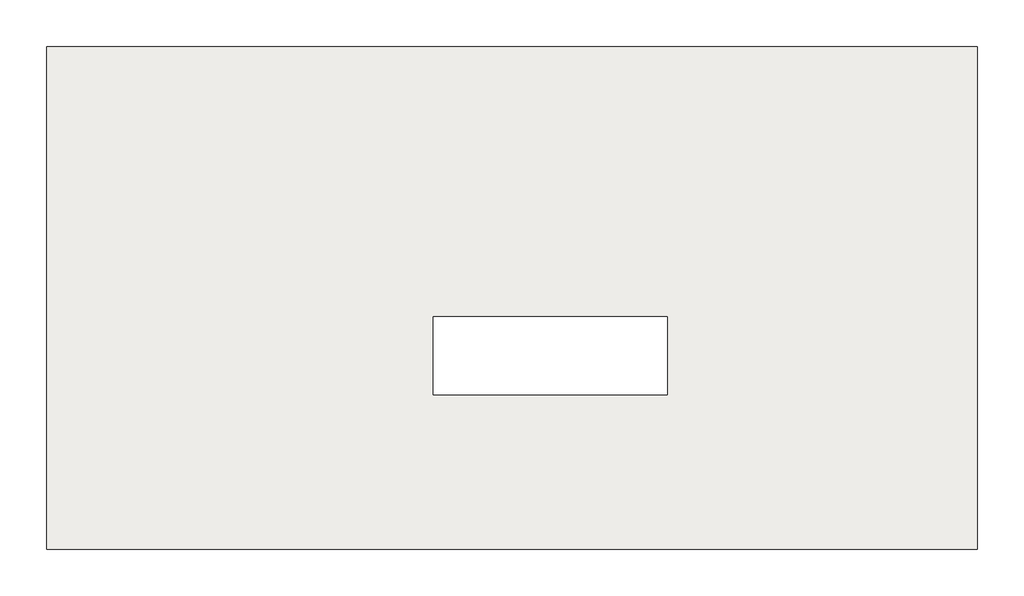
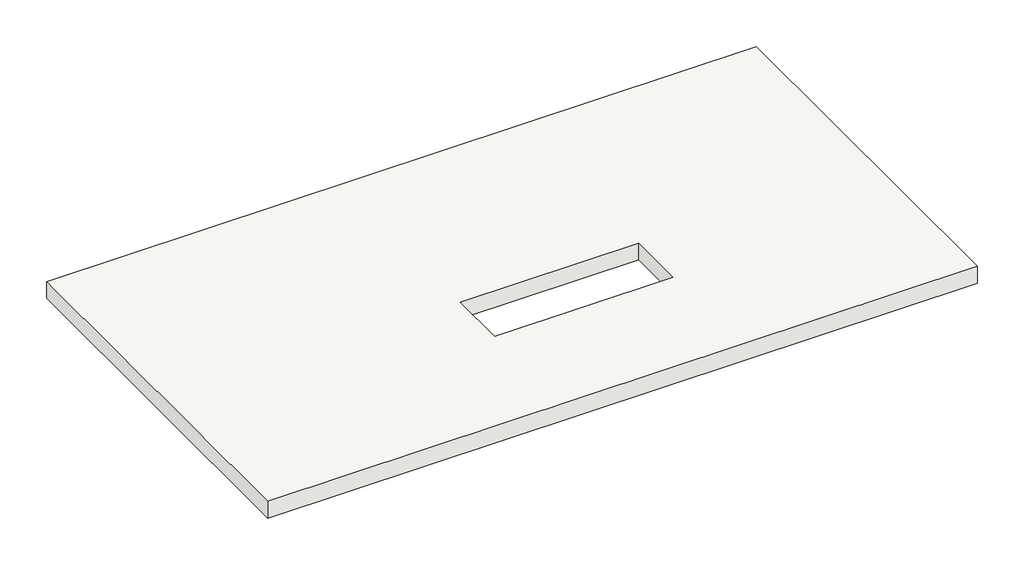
# One storey: 1 slab.
"""IFC4 building model written with IfcOpenShell, lengths in millimetres."""

from ifc_helpers import new_model, si_unit, frame, origin, place, context, project, spatial, polyline, outline, extrude, element, save

model = new_model("IFC4")

# Units and contexts
model_context = context("Model", 3, world=origin())
ifc_project = project(units=[si_unit("LENGTHUNIT", "METRE", prefix="MILLI")], contexts=[model_context])

# Site, building, storey
site = spatial("IfcSite", under=ifc_project)
building = spatial("IfcBuilding", under=site)
storey = spatial("IfcBuildingStorey", under=building, Name="1 樓", Elevation=0.0)

# Slab
placement = place(None, origin())
element("IfcSlab", 1, ObjectType="通用 300mm", at=placement, inside=storey, context=model_context, shape_type="SweptSolid", body=[
    extrude(outline(polyline([(12124.0211658, 4451.6708703), (12124.0211658, -8448.3291297), (-11775.9788342, -8448.3291297), (-11775.9788342, 4451.6708703), (12124.0211658, 4451.6708703)]), holes=[polyline([(4154.9240828, -2485.706287), (-1845.0759172, -2485.706287), (-1845.0759172, -4485.706287), (4154.9240828, -4485.706287), (4154.9240828, -2485.706287)])]), frame((0.0, 0.0, -600.0), z_axis=(0.0, 0.0, 1.0), x_axis=(1.0, 0.0, 0.0)), (0.0, 0.0, 1.0), 600.0),
])

save(model, "model.ifc")
